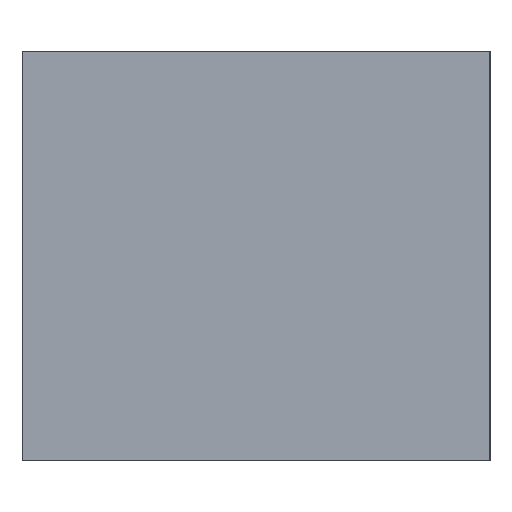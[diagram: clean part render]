
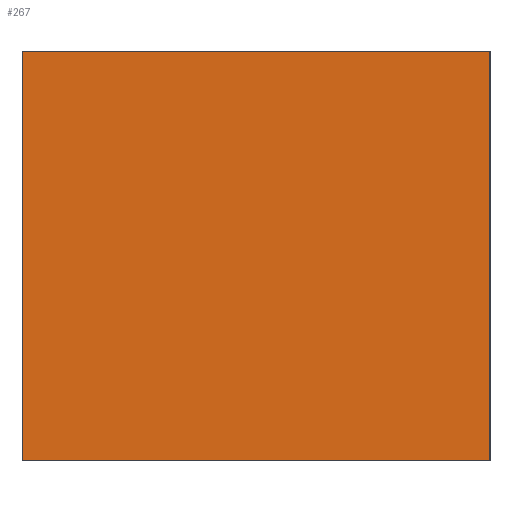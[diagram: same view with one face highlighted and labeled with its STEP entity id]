
A CAD part, left-side view. The second image highlights one B-rep face of the part: STEP entity #267.
In plain terms, the highlighted planar face has unit normal (-1, 0, 0).
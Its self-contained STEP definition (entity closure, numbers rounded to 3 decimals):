
#267=ADVANCED_FACE('',(#459),#461,.T.);
#459=FACE_BOUND('',#460,.T.);
#460=EDGE_LOOP('',(#594,#595,#596,#597));
#461=PLANE('',#462);
#462=AXIS2_PLACEMENT_3D('',#463,#464,#465);
#463=CARTESIAN_POINT('',(-0.8,-0.4,0.));
#464=DIRECTION('',(-1.,0.,0.));
#465=DIRECTION('',(0.,0.,1.));
#594=ORIENTED_EDGE('',*,*,#654,.T.);
#595=ORIENTED_EDGE('',*,*,#670,.T.);
#596=ORIENTED_EDGE('',*,*,#668,.F.);
#597=ORIENTED_EDGE('',*,*,#671,.F.);
#654=EDGE_CURVE('',#742,#743,#744,.T.);
#668=EDGE_CURVE('',#766,#758,#768,.T.);
#670=EDGE_CURVE('',#743,#758,#770,.T.);
#671=EDGE_CURVE('',#742,#766,#771,.T.);
#742=VERTEX_POINT('',#922);
#743=VERTEX_POINT('',#923);
#744=LINE('',#924,#925);
#758=VERTEX_POINT('',#956);
#766=VERTEX_POINT('',#972);
#768=LINE('',#976,#977);
#770=LINE('',#982,#983);
#771=LINE('',#985,#986);
#922=CARTESIAN_POINT('',(-0.8,-0.4,0.));
#923=CARTESIAN_POINT('',(-0.8,-0.4,0.7));
#924=CARTESIAN_POINT('',(-0.8,-0.4,0.));
#925=VECTOR('',#926,1.);
#926=DIRECTION('',(0.,0.,1.));
#956=CARTESIAN_POINT('',(-0.8,0.4,0.7));
#972=CARTESIAN_POINT('',(-0.8,0.4,0.));
#976=CARTESIAN_POINT('',(-0.8,0.4,0.));
#977=VECTOR('',#978,1.);
#978=DIRECTION('',(0.,0.,1.));
#982=CARTESIAN_POINT('',(-0.8,-0.4,0.7));
#983=VECTOR('',#984,1.);
#984=DIRECTION('',(0.,1.,0.));
#985=CARTESIAN_POINT('',(-0.8,-0.4,0.));
#986=VECTOR('',#987,1.);
#987=DIRECTION('',(0.,1.,0.));
